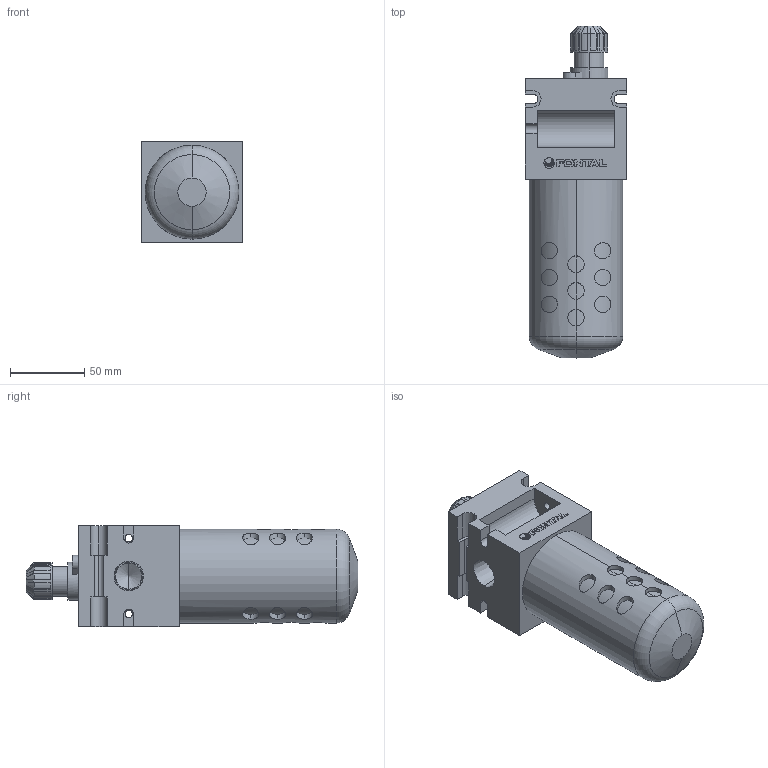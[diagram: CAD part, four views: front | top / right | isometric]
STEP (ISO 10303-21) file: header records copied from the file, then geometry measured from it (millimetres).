
FILE_DESCRIPTION (( 'STEP AP203' ), '1' );
FILE_NAME ('L105-04#.STEP', '2016-01-14T18:56:03', ( '' ), ( '' ), 'SwSTEP 2.0', 'SolidWorks 2014', '' );
FILE_SCHEMA (( 'CONFIG_CONTROL_DESIGN' ));
Length unit declared in the file: millimetre
Products named in the file (8): L105-04#; F105-1; F105-2; F105-MARK; L45-1; F105; L508-5; L45-2
Assembly tree (7 placements, depth 3):
  L105-04#
    F105
      F105-1
      F105-2
      F105-MARK
    L45-2
    L508-5
    L45-1
Bounding box: 68 x 223 x 68.2 mm (x, y, z)
Volume: 606780.9 mm3; surface area: 74003 mm2
Topology: 12 solids, 12 shells, 351 faces, 922 edges, 610 vertices
Faces by surface type: plane 191, cylinder 128, cone 22, bspline 8, torus 2
Entity records: 14388 total; most frequent: CARTESIAN_POINT 5006, ORIENTED_EDGE 1836, DIRECTION 1662, EDGE_CURVE 918, VERTEX_POINT 610, LINE 594, VECTOR 594, AXIS2_PLACEMENT_3D 534
